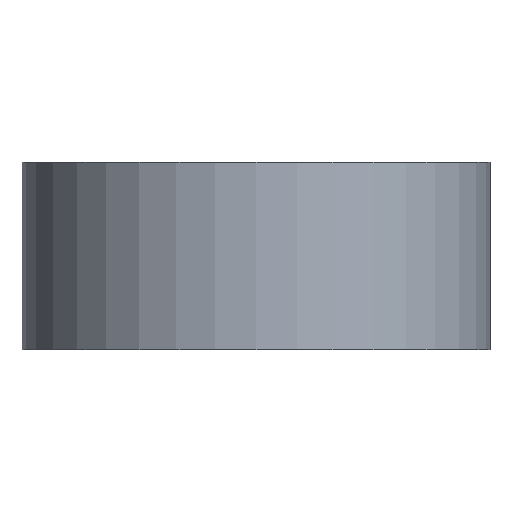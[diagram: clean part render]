
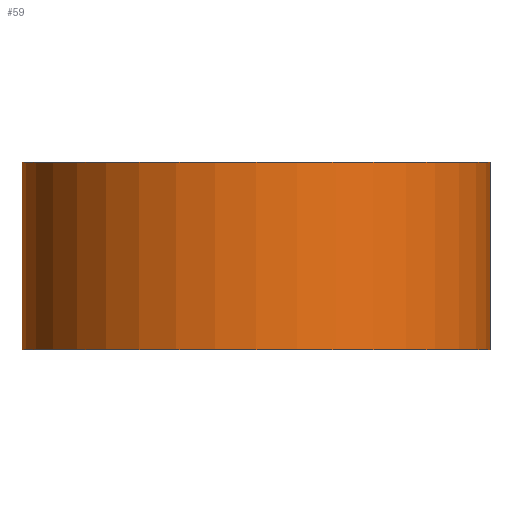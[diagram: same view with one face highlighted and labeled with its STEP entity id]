
A CAD part, front view. The second image highlights one B-rep face of the part: STEP entity #59.
In plain terms, the highlighted cylindrical face has radius 2 mm (diameter 4 mm), a full revolution.
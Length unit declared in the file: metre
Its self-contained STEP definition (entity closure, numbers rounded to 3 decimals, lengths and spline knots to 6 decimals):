
#15=LINE('',#105,#17);
#17=VECTOR('',#88,1.);
#22=ORIENTED_EDGE('',*,*,#33,.F.);
#23=ORIENTED_EDGE('',*,*,#34,.T.);
#24=ORIENTED_EDGE('',*,*,#35,.T.);
#25=ORIENTED_EDGE('',*,*,#34,.F.);
#33=EDGE_CURVE('',#38,#38,#42,.T.);
#34=EDGE_CURVE('',#38,#39,#15,.F.);
#35=EDGE_CURVE('',#39,#39,#43,.T.);
#38=VERTEX_POINT('',#104);
#39=VERTEX_POINT('',#106);
#42=CIRCLE('',#71,0.002);
#43=CIRCLE('',#72,0.002);
#45=EDGE_LOOP('',(#22,#23,#24,#25));
#51=FACE_BOUND('',#45,.T.);
#57=CYLINDRICAL_SURFACE('',#70,0.002);
#59=ADVANCED_FACE('',(#51),#57,.T.);
#70=AXIS2_PLACEMENT_3D('',#102,#84,#85);
#71=AXIS2_PLACEMENT_3D('',#103,#86,#87);
#72=AXIS2_PLACEMENT_3D('',#107,#89,#90);
#84=DIRECTION('',(0.,0.,1.));
#85=DIRECTION('',(0.,-1.,0.));
#86=DIRECTION('',(0.,0.,1.));
#87=DIRECTION('',(0.,-1.,0.));
#88=DIRECTION('',(0.,0.,1.));
#89=DIRECTION('',(0.,0.,1.));
#90=DIRECTION('',(0.,-1.,0.));
#102=CARTESIAN_POINT('',(-0.0405,0.00995,-0.03));
#103=CARTESIAN_POINT('',(-0.0405,0.00995,-0.0284));
#104=CARTESIAN_POINT('',(-0.0405,0.01195,-0.0284));
#105=CARTESIAN_POINT('',(-0.0405,0.01195,-0.03));
#106=CARTESIAN_POINT('',(-0.0405,0.01195,-0.03));
#107=CARTESIAN_POINT('',(-0.0405,0.00995,-0.03));
